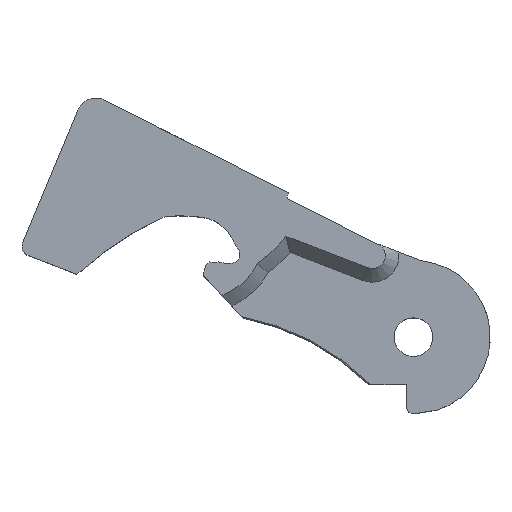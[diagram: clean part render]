
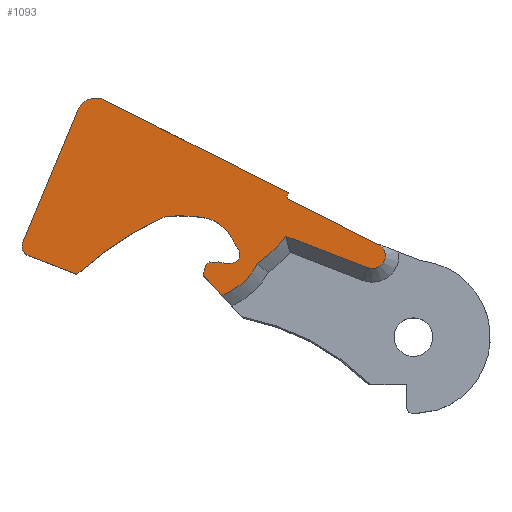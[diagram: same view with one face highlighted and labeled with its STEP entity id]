
A CAD part, top view. The second image highlights one B-rep face of the part: STEP entity #1093.
In plain terms, the highlighted planar face has unit normal (0, 0, 1).
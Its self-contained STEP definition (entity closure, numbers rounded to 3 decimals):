
#61=PLANE('',#1195);
#86=FACE_OUTER_BOUND('',#151,.T.);
#151=EDGE_LOOP('',(#766,#767,#768,#769,#770,#771,#772,#773,#774,#775,#776,
#777,#778,#779,#780,#781,#782,#783,#784,#785,#786,#787));
#219=LINE('',#1680,#294);
#228=LINE('',#1728,#303);
#229=LINE('',#1731,#304);
#231=LINE('',#1755,#306);
#232=LINE('',#1761,#307);
#233=LINE('',#1765,#308);
#234=LINE('',#1768,#309);
#294=VECTOR('',#1324,10.);
#303=VECTOR('',#1369,10.);
#304=VECTOR('',#1372,10.);
#306=VECTOR('',#1396,10.);
#307=VECTOR('',#1401,10.);
#308=VECTOR('',#1404,10.);
#309=VECTOR('',#1407,10.);
#366=CIRCLE('',#1173,2.);
#381=CIRCLE('',#1191,1.);
#383=CIRCLE('',#1196,34.393);
#384=CIRCLE('',#1197,16.437);
#385=CIRCLE('',#1198,4.);
#386=CIRCLE('',#1199,15.);
#387=CIRCLE('',#1200,0.925);
#388=CIRCLE('',#1201,3.955);
#389=CIRCLE('',#1202,0.795);
#390=CIRCLE('',#1203,2.134);
#391=CIRCLE('',#1204,1.664);
#392=CIRCLE('',#1205,6.598);
#393=CIRCLE('',#1206,17.055);
#394=CIRCLE('',#1207,1.322);
#395=CIRCLE('',#1208,1.524);
#444=VERTEX_POINT('',#1670);
#445=VERTEX_POINT('',#1672);
#447=VERTEX_POINT('',#1678);
#467=VERTEX_POINT('',#1722);
#468=VERTEX_POINT('',#1726);
#469=VERTEX_POINT('',#1730);
#471=VERTEX_POINT('',#1736);
#472=VERTEX_POINT('',#1738);
#473=VERTEX_POINT('',#1740);
#474=VERTEX_POINT('',#1742);
#475=VERTEX_POINT('',#1744);
#476=VERTEX_POINT('',#1746);
#477=VERTEX_POINT('',#1748);
#478=VERTEX_POINT('',#1750);
#479=VERTEX_POINT('',#1752);
#480=VERTEX_POINT('',#1754);
#481=VERTEX_POINT('',#1756);
#482=VERTEX_POINT('',#1758);
#483=VERTEX_POINT('',#1760);
#484=VERTEX_POINT('',#1762);
#485=VERTEX_POINT('',#1764);
#486=VERTEX_POINT('',#1766);
#555=EDGE_CURVE('',#444,#445,#366,.T.);
#559=EDGE_CURVE('',#444,#447,#219,.T.);
#580=EDGE_CURVE('',#467,#447,#381,.T.);
#583=EDGE_CURVE('',#467,#468,#228,.T.);
#584=EDGE_CURVE('',#445,#469,#229,.T.);
#587=EDGE_CURVE('',#468,#471,#383,.T.);
#588=EDGE_CURVE('',#471,#472,#384,.T.);
#589=EDGE_CURVE('',#472,#473,#385,.F.);
#590=EDGE_CURVE('',#474,#473,#386,.T.);
#591=EDGE_CURVE('',#474,#475,#387,.T.);
#592=EDGE_CURVE('',#475,#476,#388,.T.);
#593=EDGE_CURVE('',#476,#477,#389,.T.);
#594=EDGE_CURVE('',#477,#478,#390,.T.);
#595=EDGE_CURVE('',#478,#479,#391,.T.);
#596=EDGE_CURVE('',#479,#480,#231,.T.);
#597=EDGE_CURVE('',#480,#481,#392,.T.);
#598=EDGE_CURVE('',#481,#482,#393,.T.);
#599=EDGE_CURVE('',#483,#482,#232,.T.);
#600=EDGE_CURVE('',#484,#483,#394,.T.);
#601=EDGE_CURVE('',#484,#485,#233,.T.);
#602=EDGE_CURVE('',#485,#486,#395,.T.);
#603=EDGE_CURVE('',#486,#469,#234,.T.);
#766=ORIENTED_EDGE('',*,*,#555,.F.);
#767=ORIENTED_EDGE('',*,*,#559,.T.);
#768=ORIENTED_EDGE('',*,*,#580,.F.);
#769=ORIENTED_EDGE('',*,*,#583,.T.);
#770=ORIENTED_EDGE('',*,*,#587,.T.);
#771=ORIENTED_EDGE('',*,*,#588,.T.);
#772=ORIENTED_EDGE('',*,*,#589,.T.);
#773=ORIENTED_EDGE('',*,*,#590,.F.);
#774=ORIENTED_EDGE('',*,*,#591,.T.);
#775=ORIENTED_EDGE('',*,*,#592,.T.);
#776=ORIENTED_EDGE('',*,*,#593,.T.);
#777=ORIENTED_EDGE('',*,*,#594,.T.);
#778=ORIENTED_EDGE('',*,*,#595,.T.);
#779=ORIENTED_EDGE('',*,*,#596,.T.);
#780=ORIENTED_EDGE('',*,*,#597,.T.);
#781=ORIENTED_EDGE('',*,*,#598,.T.);
#782=ORIENTED_EDGE('',*,*,#599,.F.);
#783=ORIENTED_EDGE('',*,*,#600,.F.);
#784=ORIENTED_EDGE('',*,*,#601,.T.);
#785=ORIENTED_EDGE('',*,*,#602,.T.);
#786=ORIENTED_EDGE('',*,*,#603,.T.);
#787=ORIENTED_EDGE('',*,*,#584,.F.);
#1093=ADVANCED_FACE('',(#86),#61,.T.);
#1173=AXIS2_PLACEMENT_3D('',#1673,#1317,#1318);
#1191=AXIS2_PLACEMENT_3D('',#1723,#1363,#1364);
#1195=AXIS2_PLACEMENT_3D('',#1735,#1376,#1377);
#1196=AXIS2_PLACEMENT_3D('',#1737,#1378,#1379);
#1197=AXIS2_PLACEMENT_3D('',#1739,#1380,#1381);
#1198=AXIS2_PLACEMENT_3D('',#1741,#1382,#1383);
#1199=AXIS2_PLACEMENT_3D('',#1743,#1384,#1385);
#1200=AXIS2_PLACEMENT_3D('',#1745,#1386,#1387);
#1201=AXIS2_PLACEMENT_3D('',#1747,#1388,#1389);
#1202=AXIS2_PLACEMENT_3D('',#1749,#1390,#1391);
#1203=AXIS2_PLACEMENT_3D('',#1751,#1392,#1393);
#1204=AXIS2_PLACEMENT_3D('',#1753,#1394,#1395);
#1205=AXIS2_PLACEMENT_3D('',#1757,#1397,#1398);
#1206=AXIS2_PLACEMENT_3D('',#1759,#1399,#1400);
#1207=AXIS2_PLACEMENT_3D('',#1763,#1402,#1403);
#1208=AXIS2_PLACEMENT_3D('',#1767,#1405,#1406);
#1317=DIRECTION('center_axis',(0.,0.,-1.));
#1318=DIRECTION('ref_axis',(-0.348,0.937,0.));
#1324=DIRECTION('',(-0.383,-0.924,0.));
#1363=DIRECTION('center_axis',(0.,0.,-1.));
#1364=DIRECTION('ref_axis',(-0.919,-0.394,0.));
#1369=DIRECTION('',(0.934,-0.358,0.));
#1372=DIRECTION('',(0.893,-0.45,0.));
#1376=DIRECTION('center_axis',(0.,0.,1.));
#1377=DIRECTION('ref_axis',(1.,0.,0.));
#1378=DIRECTION('center_axis',(0.,0.,-1.));
#1379=DIRECTION('ref_axis',(0.41,-0.912,0.));
#1380=DIRECTION('center_axis',(0.,0.,-1.));
#1381=DIRECTION('ref_axis',(0.255,0.967,0.));
#1382=DIRECTION('center_axis',(0.,0.,1.));
#1383=DIRECTION('ref_axis',(-0.885,-0.466,0.));
#1384=DIRECTION('center_axis',(0.,0.,-1.));
#1385=DIRECTION('ref_axis',(-0.869,-0.494,0.));
#1386=DIRECTION('center_axis',(0.,0.,-1.));
#1387=DIRECTION('ref_axis',(-0.02,1.,0.));
#1388=DIRECTION('center_axis',(0.,0.,-1.));
#1389=DIRECTION('ref_axis',(0.204,0.979,0.));
#1390=DIRECTION('center_axis',(0.,0.,-1.));
#1391=DIRECTION('ref_axis',(0.387,0.922,0.));
#1392=DIRECTION('center_axis',(0.,0.,-1.));
#1393=DIRECTION('ref_axis',(0.215,0.977,0.));
#1394=DIRECTION('center_axis',(0.,0.,1.));
#1395=DIRECTION('ref_axis',(-0.654,0.757,0.));
#1396=DIRECTION('',(0.684,-0.729,0.));
#1397=DIRECTION('center_axis',(0.,0.,1.));
#1398=DIRECTION('ref_axis',(0.338,-0.941,0.));
#1399=DIRECTION('center_axis',(0.,0.,1.));
#1400=DIRECTION('ref_axis',(0.604,-0.797,0.));
#1401=DIRECTION('',(-0.934,0.358,0.));
#1402=DIRECTION('center_axis',(0.,0.,-1.));
#1403=DIRECTION('ref_axis',(0.358,0.934,0.));
#1404=DIRECTION('',(-0.895,0.445,0.));
#1405=DIRECTION('center_axis',(0.,0.,-1.));
#1406=DIRECTION('ref_axis',(0.934,-0.358,0.));
#1407=DIRECTION('',(0.358,0.934,0.));
#1670=CARTESIAN_POINT('',(-34.434,23.288,3.813));
#1672=CARTESIAN_POINT('',(-31.688,24.307,3.813));
#1673=CARTESIAN_POINT('Origin',(-32.587,22.521,3.813));
#1678=CARTESIAN_POINT('',(-40.081,9.684,3.813));
#1680=CARTESIAN_POINT('',(-35.031,21.85,3.813));
#1722=CARTESIAN_POINT('',(-39.516,8.367,3.813));
#1723=CARTESIAN_POINT('Origin',(-39.157,9.3,3.813));
#1726=CARTESIAN_POINT('',(-34.514,6.447,3.813));
#1728=CARTESIAN_POINT('',(-40.863,8.884,3.813));
#1730=CARTESIAN_POINT('',(-12.818,14.805,3.813));
#1731=CARTESIAN_POINT('',(-26.877,21.884,3.813));
#1735=CARTESIAN_POINT('Origin',(-25.059,13.756,3.813));
#1736=CARTESIAN_POINT('',(-25.483,12.371,3.813));
#1737=CARTESIAN_POINT('Origin',(-11.369,-18.993,3.813));
#1738=CARTESIAN_POINT('',(-21.634,12.282,3.813));
#1739=CARTESIAN_POINT('Origin',(-23.936,-3.993,3.813));
#1740=CARTESIAN_POINT('',(-18.655,10.185,3.813));
#1741=CARTESIAN_POINT('Origin',(-22.194,8.321,3.813));
#1742=CARTESIAN_POINT('',(-17.962,9.002,3.813));
#1743=CARTESIAN_POINT('Origin',(-5.383,17.174,3.813));
#1744=CARTESIAN_POINT('',(-18.719,7.574,3.813));
#1745=CARTESIAN_POINT('Origin',(-18.737,8.498,3.813));
#1746=CARTESIAN_POINT('',(-19.765,7.65,3.813));
#1747=CARTESIAN_POINT('Origin',(-18.957,11.521,3.813));
#1748=CARTESIAN_POINT('',(-20.022,7.71,3.813));
#1749=CARTESIAN_POINT('Origin',(-19.715,8.444,3.813));
#1750=CARTESIAN_POINT('',(-20.941,7.71,3.813));
#1751=CARTESIAN_POINT('Origin',(-20.482,9.794,3.813));
#1752=CARTESIAN_POINT('',(-21.508,6.279,3.813));
#1753=CARTESIAN_POINT('Origin',(-19.853,6.451,3.813));
#1754=CARTESIAN_POINT('',(-19.65,4.297,3.813));
#1755=CARTESIAN_POINT('',(-21.508,6.279,3.813));
#1756=CARTESIAN_POINT('',(-15.987,7.542,3.813));
#1757=CARTESIAN_POINT('Origin',(-21.882,10.506,3.813));
#1758=CARTESIAN_POINT('',(-13.078,10.349,3.813));
#1759=CARTESIAN_POINT('Origin',(-26.29,21.133,3.813));
#1760=CARTESIAN_POINT('',(-4.688,7.128,3.813));
#1761=CARTESIAN_POINT('',(-4.688,7.128,3.813));
#1762=CARTESIAN_POINT('',(-3.74,9.598,3.813));
#1763=CARTESIAN_POINT('Origin',(-4.214,8.363,3.813));
#1764=CARTESIAN_POINT('',(-12.949,14.18,3.813));
#1765=CARTESIAN_POINT('',(-3.74,9.598,3.813));
#1766=CARTESIAN_POINT('',(-12.848,14.726,3.813));
#1767=CARTESIAN_POINT('Origin',(-11.425,14.18,3.813));
#1768=CARTESIAN_POINT('',(-12.848,14.726,3.813));
